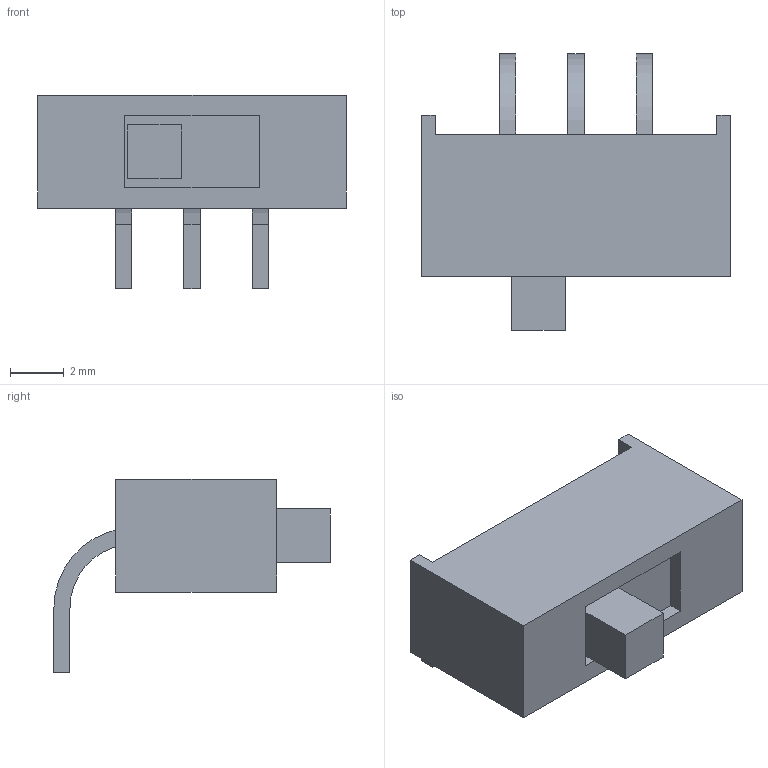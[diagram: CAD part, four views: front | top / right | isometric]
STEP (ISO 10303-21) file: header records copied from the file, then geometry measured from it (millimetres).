
FILE_DESCRIPTION(/* description */ ('STEP AP242','CAx-IF Rec.Pracs.---Representation and Presentation of Product Manufacturing Information (PMI)---4.0---2014-10-13','CAx-IF Rec.Pracs.---3D Tessellated Geometry---0.4---2014-09-14','2;1'),/* implementation_level */ '2;1');
FILE_NAME(/* name */ '6306870b8d7caf183897fc69',/* time_stamp */ '2022-08-24T20:16:12+00:00',/* author */ (''),/* organization */ (''),/* preprocessor_version */ 'ST-DEVELOPER v18.102',/* originating_system */ ' ',/* authorisation */ ' ');
FILE_SCHEMA (('AP242_MANAGED_MODEL_BASED_3D_ENGINEERING_MIM_LF { 1 0 10303 442 1 1 4 }'));
Length unit declared in the file: metre
Products named in the file (1): Switch
Bounding box: 11.5 x 10.3 x 7.2 mm (x, y, z)
Volume: 269.4 mm3; surface area: 351.7 mm2
Topology: 1 solids, 1 shells, 41 faces, 102 edges, 68 vertices
Faces by surface type: plane 35, cylinder 6
Entity records: 1386 total; most frequent: CARTESIAN_POINT 212, ORIENTED_EDGE 204, DIRECTION 198, EDGE_CURVE 102, LINE 90, VECTOR 90, VERTEX_POINT 68, AXIS2_PLACEMENT_3D 54
